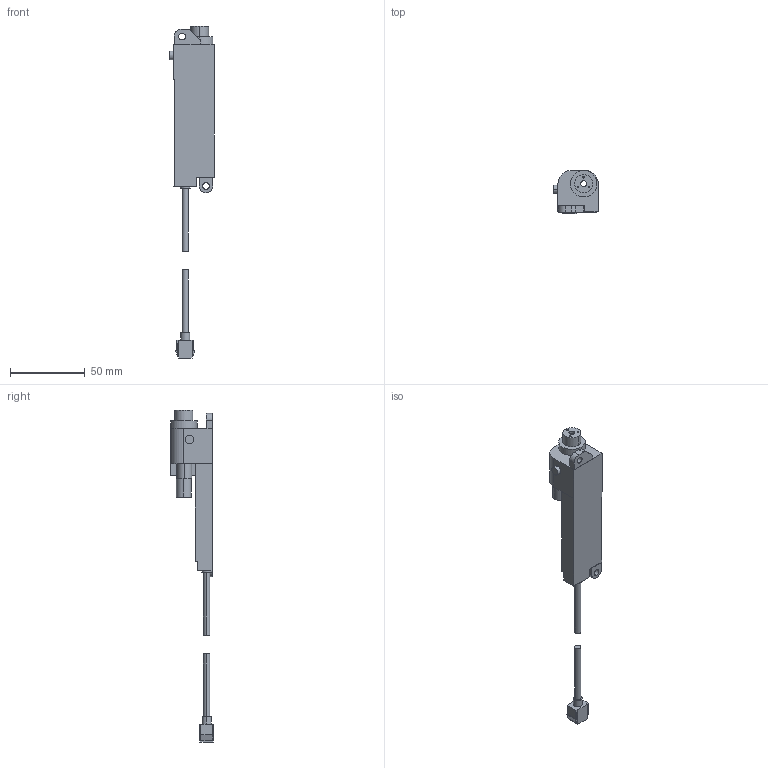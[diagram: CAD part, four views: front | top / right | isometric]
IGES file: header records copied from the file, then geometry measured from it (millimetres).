
Start section: SolidWorks IGES FILE using analytic representation for surfaces
Global section: file name: \\intra-srv04\開発データ\CAD_Data\CAD委員会\3D電子ｶﾀﾛｸﾞ\製品カタログ（新）\0_IGES\ER-VS01(+ER-VAS).IGS,41HSolidWorks 2004; native system: by SolidWorks Corporation; preprocessor: Version 5.3; author: mf1158; date: 050906.114128; units: millimetre
Bounding box: 29.8 x 28.6 x 222.3 mm (x, y, z)
Volume: 44914.8 mm3; surface area: 16363.2 mm2
Topology: 3 solids, 3 shells, 169 faces, 423 edges, 277 vertices
Faces by surface type: plane 96, revolution 73
